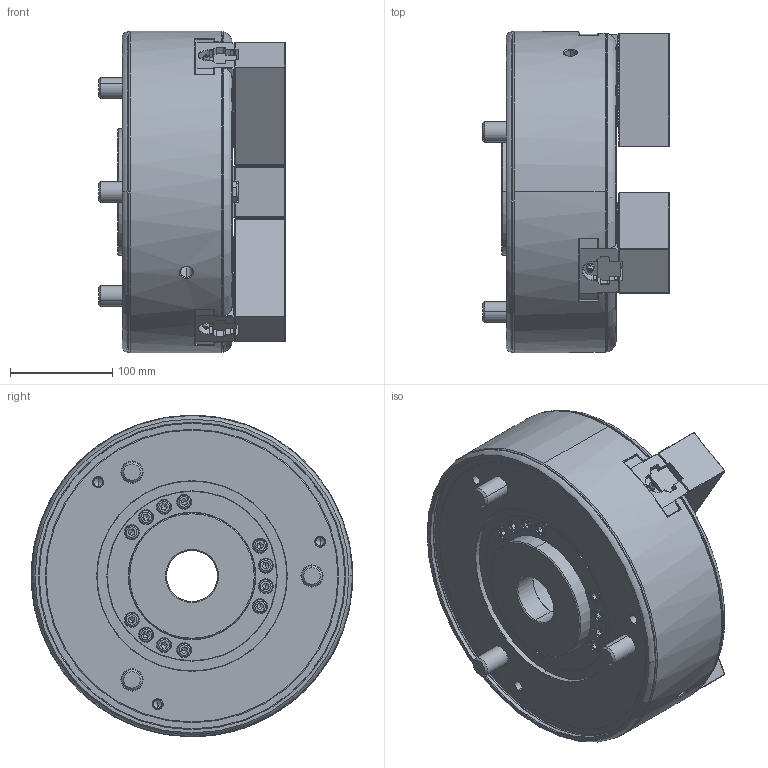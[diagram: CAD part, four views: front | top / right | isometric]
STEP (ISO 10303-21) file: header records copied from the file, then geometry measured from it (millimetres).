
FILE_DESCRIPTION (( 'STEP AP203' ), '1' );
FILE_NAME ('DEV-BR12-HOL.STEP', '2024-03-07T02:49:51', ( '' ), ( '' ), 'SwSTEP 2.0', 'SolidWorks 2022', '' );
FILE_SCHEMA (( 'CONFIG_CONTROL_DESIGN' ));
Length unit declared in the file: millimetre
Products named in the file (9): Bアナツキ M20×110; BR12-Nishi07 ドローナット_外観-ﾃﾞﾌｫﾙﾄ; Bアナツキボタン M6×10_デフォルト; 61P366784-2 BB212 カバー; DEV-BR12-HOL; 61P318349-4 SB12N1 ソフトジョー_外観-ﾃﾞﾌｫﾙﾄ; BR12-Nishi08 Tナット-Plus_61P447364-2 BB212 Tナット-ﾃﾞﾌｫﾙﾄ; Bアナツキ M16×35; Part117^DEV-BR12-クミタテ
Assembly tree (21 placements, depth 2):
  DEV-BR12-HOL
    BR12-Nishi07 ドローナット_外観-ﾃﾞﾌｫﾙﾄ
    61P318349-4 SB12N1 ソフトジョー_外観-ﾃﾞﾌｫﾙﾄ  x3
    BR12-Nishi08 Tナット-Plus_61P447364-2 BB212 Tナット-ﾃﾞﾌｫﾙﾄ  x3
    61P366784-2 BB212 カバー
    Bアナツキ M16×35  x6
    Bアナツキボタン M6×10_デフォルト  x3
    Bアナツキ M20×110  x3
    Part117^DEV-BR12-クミタテ
Bounding box: 183 x 315 x 315 mm (x, y, z)
Volume: 7798299.7 mm3; surface area: 637788.1 mm2
Topology: 23 solids, 32 shells, 4747 faces, 13074 edges, 8451 vertices
Faces by surface type: plane 3639, cylinder 467, cone 394, bspline 126, torus 107, sphere 14
Entity records: 118275 total; most frequent: CARTESIAN_POINT 29787, ORIENTED_EDGE 18836, DIRECTION 16977, EDGE_CURVE 9418, VECTOR 7515, LINE 7515, VERTEX_POINT 6120, AXIS2_PLACEMENT_3D 4731
